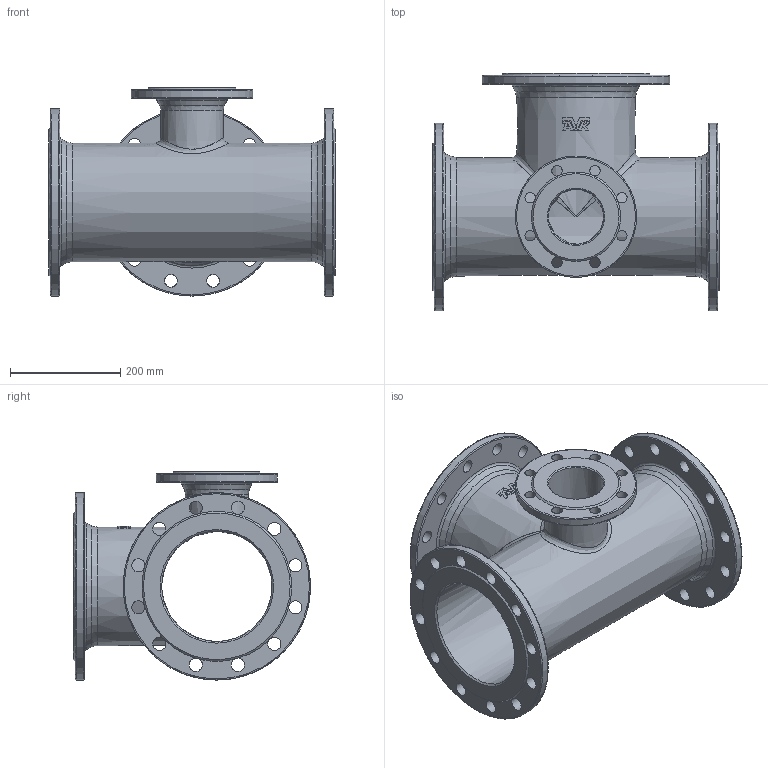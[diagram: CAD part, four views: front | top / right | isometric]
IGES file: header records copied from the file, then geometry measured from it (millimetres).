
Start section: SolidWorks IGES file using analytic representation for surfaces
Global section: file name: \\avksan2\techshare\PBM outline export from Enovia\O_712_1110_DN200_1_AA0.igs; native system: SolidWorks 2012; preprocessor: SolidWorks 2012; author: pbm; date: 171013.092720; units: millimetre
Bounding box: 520 x 430 x 377.5 mm (x, y, z)
Surface area: 1306079.4 mm2 (no closed solid volume)
Topology: 0 solids, 0 shells, 150 faces, 1030 edges, 935 vertices
Faces by surface type: revolution 91, bspline 59
